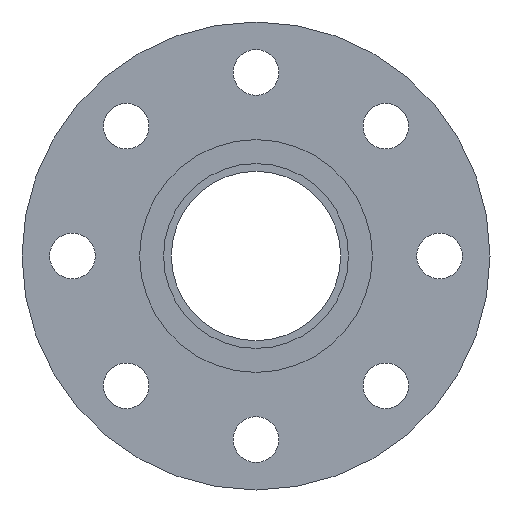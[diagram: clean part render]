
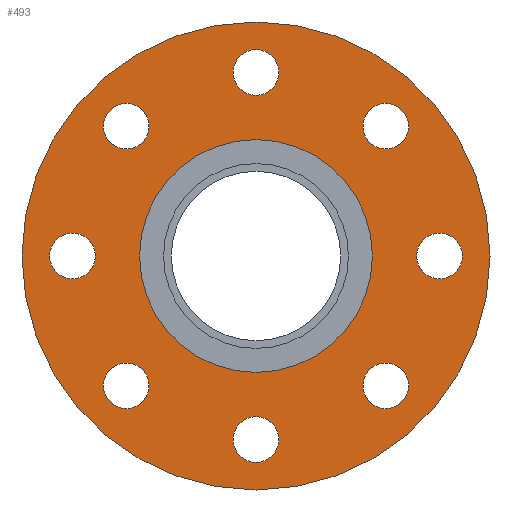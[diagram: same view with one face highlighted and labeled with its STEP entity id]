
A CAD part, left-side view. The second image highlights one B-rep face of the part: STEP entity #493.
In plain terms, the highlighted planar face has unit normal (-1, 0, 0).
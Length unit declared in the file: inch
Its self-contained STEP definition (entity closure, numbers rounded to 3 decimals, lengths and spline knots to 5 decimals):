
#49=FACE_BOUND('',#119,.T.);
#50=FACE_BOUND('',#120,.T.);
#51=FACE_BOUND('',#121,.T.);
#52=FACE_BOUND('',#122,.T.);
#53=FACE_BOUND('',#123,.T.);
#54=FACE_BOUND('',#124,.T.);
#55=FACE_BOUND('',#125,.T.);
#56=FACE_BOUND('',#126,.T.);
#57=FACE_BOUND('',#127,.T.);
#72=PLANE('',#571);
#92=FACE_OUTER_BOUND('',#118,.T.);
#118=EDGE_LOOP('',(#397,#398));
#119=EDGE_LOOP('',(#399));
#120=EDGE_LOOP('',(#400));
#121=EDGE_LOOP('',(#401));
#122=EDGE_LOOP('',(#402));
#123=EDGE_LOOP('',(#403));
#124=EDGE_LOOP('',(#404));
#125=EDGE_LOOP('',(#405));
#126=EDGE_LOOP('',(#406));
#127=EDGE_LOOP('',(#407,#408));
#173=CIRCLE('',#520,0.355);
#175=CIRCLE('',#523,0.355);
#177=CIRCLE('',#526,0.355);
#179=CIRCLE('',#529,0.355);
#181=CIRCLE('',#532,0.355);
#183=CIRCLE('',#535,0.355);
#185=CIRCLE('',#538,0.355);
#187=CIRCLE('',#541,0.355);
#206=CIRCLE('',#569,1.81);
#207=CIRCLE('',#570,1.81);
#208=CIRCLE('',#572,3.64);
#209=CIRCLE('',#573,3.64);
#217=VERTEX_POINT('',#776);
#219=VERTEX_POINT('',#782);
#221=VERTEX_POINT('',#788);
#223=VERTEX_POINT('',#794);
#225=VERTEX_POINT('',#800);
#227=VERTEX_POINT('',#806);
#229=VERTEX_POINT('',#812);
#231=VERTEX_POINT('',#818);
#250=VERTEX_POINT('',#870);
#251=VERTEX_POINT('',#871);
#252=VERTEX_POINT('',#876);
#253=VERTEX_POINT('',#877);
#262=EDGE_CURVE('',#217,#217,#173,.T.);
#265=EDGE_CURVE('',#219,#219,#175,.T.);
#268=EDGE_CURVE('',#221,#221,#177,.T.);
#271=EDGE_CURVE('',#223,#223,#179,.T.);
#274=EDGE_CURVE('',#225,#225,#181,.T.);
#277=EDGE_CURVE('',#227,#227,#183,.T.);
#280=EDGE_CURVE('',#229,#229,#185,.T.);
#283=EDGE_CURVE('',#231,#231,#187,.T.);
#306=EDGE_CURVE('',#250,#251,#206,.T.);
#307=EDGE_CURVE('',#251,#250,#207,.T.);
#309=EDGE_CURVE('',#252,#253,#208,.T.);
#310=EDGE_CURVE('',#253,#252,#209,.T.);
#397=ORIENTED_EDGE('',*,*,#309,.F.);
#398=ORIENTED_EDGE('',*,*,#310,.F.);
#399=ORIENTED_EDGE('',*,*,#262,.T.);
#400=ORIENTED_EDGE('',*,*,#265,.T.);
#401=ORIENTED_EDGE('',*,*,#268,.T.);
#402=ORIENTED_EDGE('',*,*,#271,.T.);
#403=ORIENTED_EDGE('',*,*,#274,.T.);
#404=ORIENTED_EDGE('',*,*,#277,.T.);
#405=ORIENTED_EDGE('',*,*,#280,.T.);
#406=ORIENTED_EDGE('',*,*,#283,.T.);
#407=ORIENTED_EDGE('',*,*,#306,.T.);
#408=ORIENTED_EDGE('',*,*,#307,.T.);
#493=ADVANCED_FACE('',(#92,#49,#50,#51,#52,#53,#54,#55,#56,#57),#72,.T.);
#520=AXIS2_PLACEMENT_3D('',#778,#604,#605);
#523=AXIS2_PLACEMENT_3D('',#784,#611,#612);
#526=AXIS2_PLACEMENT_3D('',#790,#618,#619);
#529=AXIS2_PLACEMENT_3D('',#796,#625,#626);
#532=AXIS2_PLACEMENT_3D('',#802,#632,#633);
#535=AXIS2_PLACEMENT_3D('',#808,#639,#640);
#538=AXIS2_PLACEMENT_3D('',#814,#646,#647);
#541=AXIS2_PLACEMENT_3D('',#820,#653,#654);
#569=AXIS2_PLACEMENT_3D('',#872,#713,#714);
#570=AXIS2_PLACEMENT_3D('',#873,#715,#716);
#571=AXIS2_PLACEMENT_3D('',#875,#718,#719);
#572=AXIS2_PLACEMENT_3D('',#878,#720,#721);
#573=AXIS2_PLACEMENT_3D('',#879,#722,#723);
#604=DIRECTION('center_axis',(1.,0.,0.));
#605=DIRECTION('ref_axis',(0.,0.707,0.707));
#611=DIRECTION('center_axis',(1.,0.,0.));
#612=DIRECTION('ref_axis',(0.,1.,0.));
#618=DIRECTION('center_axis',(1.,0.,0.));
#619=DIRECTION('ref_axis',(0.,0.707,-0.707));
#625=DIRECTION('center_axis',(1.,0.,0.));
#626=DIRECTION('ref_axis',(0.,0.,-1.));
#632=DIRECTION('center_axis',(1.,0.,0.));
#633=DIRECTION('ref_axis',(0.,-0.707,-0.707));
#639=DIRECTION('center_axis',(1.,0.,0.));
#640=DIRECTION('ref_axis',(0.,-1.,0.));
#646=DIRECTION('center_axis',(1.,0.,0.));
#647=DIRECTION('ref_axis',(0.,-0.707,0.707));
#653=DIRECTION('center_axis',(1.,0.,0.));
#654=DIRECTION('ref_axis',(0.,0.,1.));
#713=DIRECTION('center_axis',(1.,0.,0.));
#714=DIRECTION('ref_axis',(0.,0.,-1.));
#715=DIRECTION('center_axis',(1.,0.,0.));
#716=DIRECTION('ref_axis',(0.,0.,-1.));
#718=DIRECTION('center_axis',(-1.,0.,0.));
#719=DIRECTION('ref_axis',(0.,0.,1.));
#720=DIRECTION('center_axis',(1.,0.,0.));
#721=DIRECTION('ref_axis',(0.,0.,-1.));
#722=DIRECTION('center_axis',(1.,0.,0.));
#723=DIRECTION('ref_axis',(0.,0.,-1.));
#776=CARTESIAN_POINT('',(-0.71,1.76777,-2.26981));
#778=CARTESIAN_POINT('Origin',(-0.71,2.01879,-2.01879));
#782=CARTESIAN_POINT('',(-0.71,-0.355,-2.855));
#784=CARTESIAN_POINT('Origin',(-0.71,0.,-2.855));
#788=CARTESIAN_POINT('',(-0.71,-2.26981,-1.76777));
#790=CARTESIAN_POINT('Origin',(-0.71,-2.01879,-2.01879));
#794=CARTESIAN_POINT('',(-0.71,-2.855,0.355));
#796=CARTESIAN_POINT('Origin',(-0.71,-2.855,0.));
#800=CARTESIAN_POINT('',(-0.71,-1.76777,2.26981));
#802=CARTESIAN_POINT('Origin',(-0.71,-2.01879,2.01879));
#806=CARTESIAN_POINT('',(-0.71,0.355,2.855));
#808=CARTESIAN_POINT('Origin',(-0.71,0.,2.855));
#812=CARTESIAN_POINT('',(-0.71,2.26981,1.76777));
#814=CARTESIAN_POINT('Origin',(-0.71,2.01879,2.01879));
#818=CARTESIAN_POINT('',(-0.71,2.855,-0.355));
#820=CARTESIAN_POINT('Origin',(-0.71,2.855,0.));
#870=CARTESIAN_POINT('',(-0.71,1.81,0.));
#871=CARTESIAN_POINT('',(-0.71,-1.81,0.));
#872=CARTESIAN_POINT('Origin',(-0.71,0.,0.));
#873=CARTESIAN_POINT('Origin',(-0.71,0.,0.));
#875=CARTESIAN_POINT('Origin',(-0.71,3.64,0.));
#876=CARTESIAN_POINT('',(-0.71,3.64,0.));
#877=CARTESIAN_POINT('',(-0.71,-3.64,0.));
#878=CARTESIAN_POINT('Origin',(-0.71,0.,
0.));
#879=CARTESIAN_POINT('Origin',(-0.71,0.,
0.));
